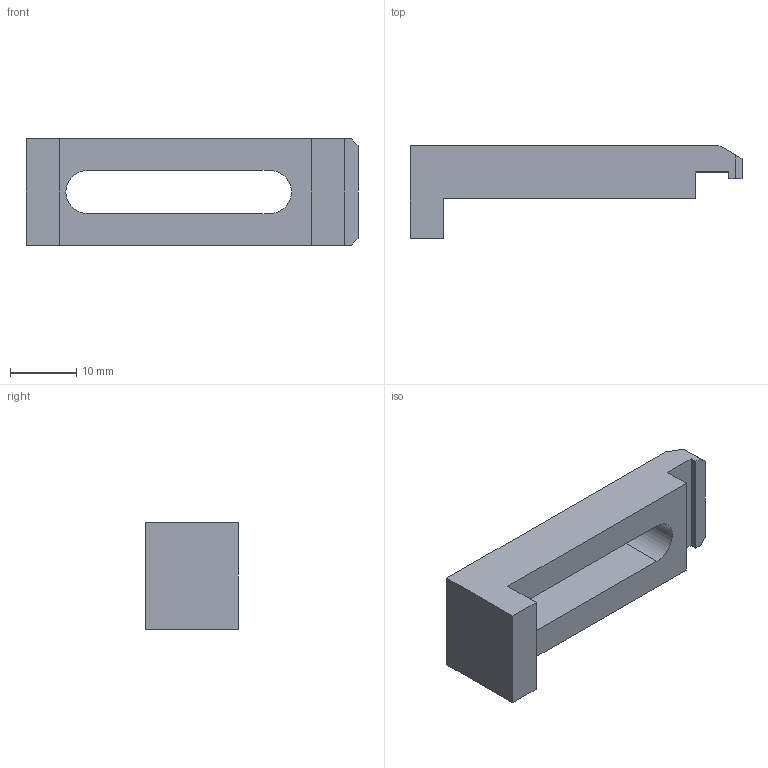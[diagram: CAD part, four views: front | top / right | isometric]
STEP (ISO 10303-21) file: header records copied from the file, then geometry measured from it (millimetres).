
FILE_DESCRIPTION(/* description */ (''),/* implementation_level */ '2;1');
FILE_NAME(/* name */ 'U:\KONSTRUKTORIAI\DOKUMENTACIJA\3\3TC7\STEP\3TC7.stp',/* time_stamp */ '2017-01-23T11:13:20+02:00',/* author */ ('dsgn33'),/* organization */ (''),/* preprocessor_version */ 'ST-DEVELOPER v15.2',/* originating_system */ 'Autodesk Inventor 2014',/* authorisation */ '');
FILE_SCHEMA (('AUTOMOTIVE_DESIGN { 1 0 10303 214 3 1 1 }'));
Length unit declared in the file: millimetre
Products named in the file (1): 3TC7.01
Bounding box: 50 x 14 x 16 mm (x, y, z)
Volume: 4709.9 mm3; surface area: 3031.7 mm2
Topology: 1 solids, 1 shells, 19 faces, 51 edges, 34 vertices
Faces by surface type: plane 17, cylinder 2
Entity records: 614 total; most frequent: CARTESIAN_POINT 105, ORIENTED_EDGE 102, DIRECTION 95, EDGE_CURVE 51, LINE 47, VECTOR 47, VERTEX_POINT 34, AXIS2_PLACEMENT_3D 24
